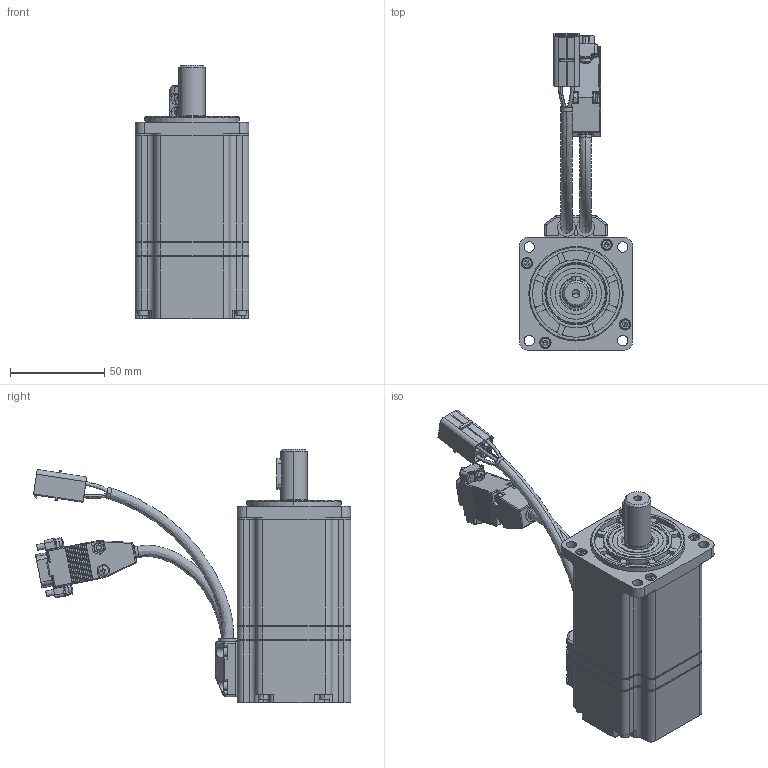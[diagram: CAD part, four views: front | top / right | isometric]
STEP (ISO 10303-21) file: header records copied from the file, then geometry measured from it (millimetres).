
FILE_DESCRIPTION (( 'STEP AP203' ), '1' );
FILE_NAME ('淕儂蚾饜.STEP', '2020-08-10T01:20:57', ( 'admin' ), ( '' ), 'SwSTEP 2.0', 'SolidWorks 2016', '' );
FILE_SCHEMA (( 'CONFIG_CONTROL_DESIGN' ));
Length unit declared in the file: millimetre
Products named in the file (1): 淕儂蚾饜
Bounding box: 60 x 167.86 x 134 mm (x, y, z)
Volume: 175116.6 mm3; surface area: 114423.7 mm2
Topology: 39 solids, 39 shells, 2170 faces, 5547 edges, 3384 vertices
Faces by surface type: cylinder 1017, plane 809, cone 132, sphere 94, bspline 68, torus 50
Entity records: 67155 total; most frequent: CARTESIAN_POINT 14859, DIRECTION 11459, ORIENTED_EDGE 10658, EDGE_CURVE 5329, AXIS2_PLACEMENT_3D 4356, VERTEX_POINT 3346, VECTOR 2747, LINE 2747
